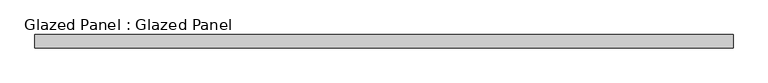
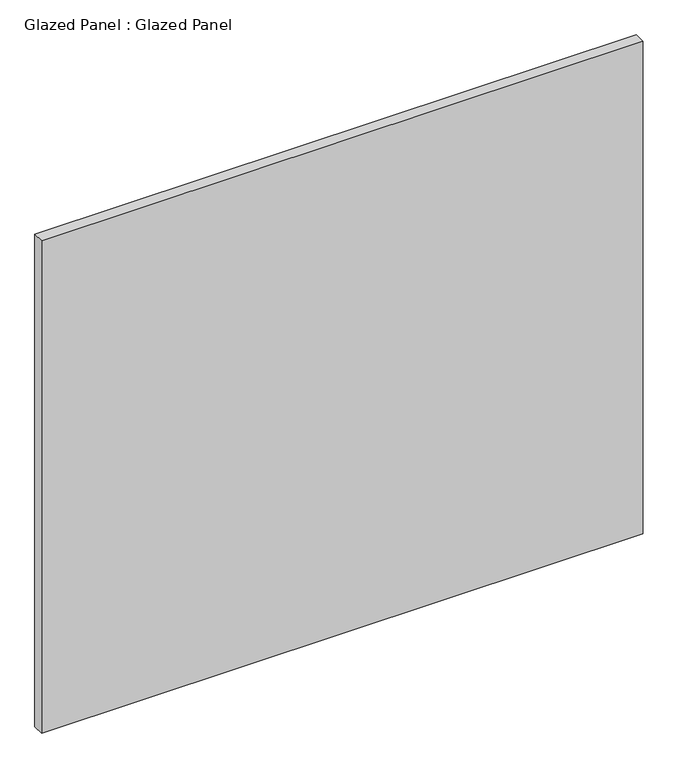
"""IFC4 building model written with IfcOpenShell, lengths in millimetres: plate geometry, Glazed Panel : Glazed Panel."""

from ifc_helpers import new_model, si_unit, origin, origin_with_axes, place, context, project, spatial, polyline, outline, extrude, source, transform, mapped, element, save


def glazed_panel_glazed_panel_71207702(model_context):
    return source(origin(), model_context, "Body", "SweptSolid", [
        extrude(outline(polyline([(668.3375, 38.1), (-668.3375, 38.1), (-668.3375, 63.5), (668.3375, 63.5), (668.3375, 38.1)])), origin_with_axes(), (0.0, 0.0, 1.0), 1155.7),
    ])


if __name__ == "__main__":
    model = new_model("IFC4")
    model_context = context("Model", 3, world=origin())
    ifc_project = project(units=[si_unit("LENGTHUNIT", "METRE", prefix="MILLI")], contexts=[model_context])
    site = spatial("IfcSite", under=ifc_project)
    building = spatial("IfcBuilding", under=site)
    placement = place(None, origin())
    glazed_panel_glazed_panel_shape = glazed_panel_glazed_panel_71207702(model_context)
    element("IfcPlate", 1, ObjectType="Glazed Panel : Glazed Panel", at=placement, inside=building, context=model_context, shape_type="MappedRepresentation", body=[
        mapped(glazed_panel_glazed_panel_shape, transform((0.0, 0.0, 0.0), x_axis=(1.0, 0.0, 0.0), y_axis=(0.0, 1.0, 0.0), z_axis=(0.0, 0.0, 1.0))),
    ])
    save(model, "model.ifc")
